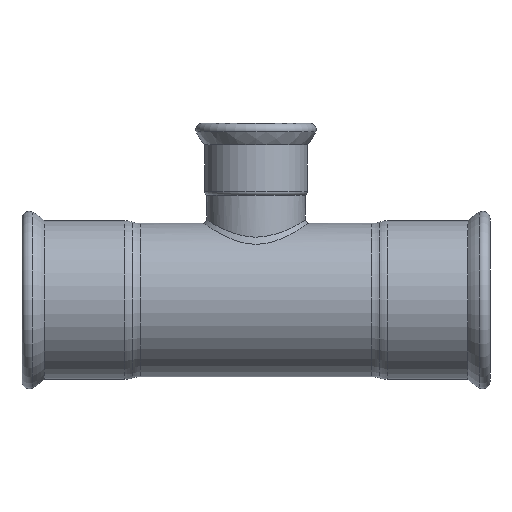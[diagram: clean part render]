
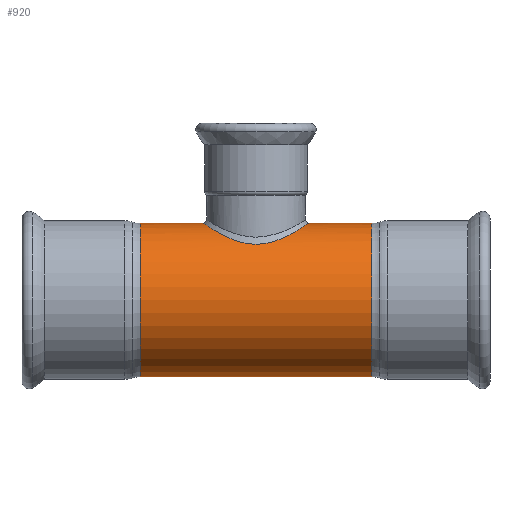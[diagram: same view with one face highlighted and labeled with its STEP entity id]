
A CAD part, front view. The second image highlights one B-rep face of the part: STEP entity #920.
In plain terms, the highlighted cylindrical face has radius 84.15 mm (diameter 168.3 mm), a full revolution.
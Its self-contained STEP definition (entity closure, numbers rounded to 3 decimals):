
#18=FACE_BOUND('',#148,.T.);
#21=B_SPLINE_CURVE_WITH_KNOTS('',3,(#1825,#1826,#1827,#1828,#1829,#1830,
#1831,#1832,#1833,#1834,#1835,#1836,#1837,#1838,#1839,#1840,#1841,#1842,
#1843,#1844,#1845,#1846,#1847,#1848,#1849,#1850,#1851,#1852,#1853,#1854,
#1855,#1856,#1857,#1858,#1859,#1860,#1861,#1862,#1863,#1864,#1865,#1866,
#1867,#1868,#1869,#1870,#1871,#1872,#1873,#1874,#1875,#1876,#1877,#1878,
#1879,#1880,#1881,#1882,#1883,#1884),.UNSPECIFIED.,.F.,.F.,(4,1,1,2,2,1,
1,2,2,2,1,2,2,1,1,2,1,2,2,1,2,2,1,2,1,1,2,2,1,2,2,1,1,2,1,1,1,2,4),(-0.954,
-0.949,-0.932,-0.909,-0.861,
-0.837,-0.826,-0.814,-0.765,
-0.717,-0.693,-0.669,-0.62,
-0.596,-0.584,-0.572,-0.561,
-0.525,-0.477,-0.454,-0.431,
-0.384,-0.348,-0.336,-0.324,
-0.313,-0.289,-0.24,-0.216,
-0.192,-0.144,-0.107,-0.101,
-0.095,-0.083,-0.077,-0.071,
-0.048,0.),.UNSPECIFIED.);
#22=B_SPLINE_CURVE_WITH_KNOTS('',3,(#1885,#1886,#1887,#1888,#1889,#1890,
#1891),.UNSPECIFIED.,.F.,.F.,(4,3,4),(0.,0.023,0.046),
 .UNSPECIFIED.);
#100=FACE_OUTER_BOUND('',#147,.T.);
#147=EDGE_LOOP('',(#846,#847,#848,#849,#850,#851,#852,#853));
#148=EDGE_LOOP('',(#854,#855));
#168=LINE('',#2452,#188);
#188=VECTOR('',#1436,84.15);
#260=CIRCLE('',#1034,84.15);
#261=CIRCLE('',#1035,84.15);
#262=CIRCLE('',#1036,84.15);
#289=CIRCLE('',#1073,84.15);
#290=CIRCLE('',#1074,84.15);
#291=CIRCLE('',#1075,84.15);
#349=VERTEX_POINT('',#1823);
#350=VERTEX_POINT('',#1824);
#375=VERTEX_POINT('',#2295);
#376=VERTEX_POINT('',#2297);
#377=VERTEX_POINT('',#2299);
#398=VERTEX_POINT('',#2360);
#399=VERTEX_POINT('',#2362);
#400=VERTEX_POINT('',#2364);
#470=EDGE_CURVE('',#349,#350,#21,.T.);
#471=EDGE_CURVE('',#350,#349,#22,.T.);
#507=EDGE_CURVE('',#375,#376,#260,.T.);
#508=EDGE_CURVE('',#376,#377,#261,.T.);
#509=EDGE_CURVE('',#377,#375,#262,.T.);
#539=EDGE_CURVE('',#399,#398,#289,.T.);
#540=EDGE_CURVE('',#400,#399,#290,.T.);
#541=EDGE_CURVE('',#398,#400,#291,.T.);
#562=EDGE_CURVE('',#400,#376,#168,.T.);
#846=ORIENTED_EDGE('',*,*,#539,.T.);
#847=ORIENTED_EDGE('',*,*,#541,.T.);
#848=ORIENTED_EDGE('',*,*,#562,.T.);
#849=ORIENTED_EDGE('',*,*,#507,.F.);
#850=ORIENTED_EDGE('',*,*,#509,.F.);
#851=ORIENTED_EDGE('',*,*,#508,.F.);
#852=ORIENTED_EDGE('',*,*,#562,.F.);
#853=ORIENTED_EDGE('',*,*,#540,.T.);
#854=ORIENTED_EDGE('',*,*,#470,.T.);
#855=ORIENTED_EDGE('',*,*,#471,.T.);
#877=CYLINDRICAL_SURFACE('',#1099,84.15);
#920=ADVANCED_FACE('',(#100,#18),#877,.T.);
#1034=AXIS2_PLACEMENT_3D('',#2298,#1298,#1299);
#1035=AXIS2_PLACEMENT_3D('',#2300,#1300,#1301);
#1036=AXIS2_PLACEMENT_3D('',#2301,#1302,#1303);
#1073=AXIS2_PLACEMENT_3D('',#2363,#1379,#1380);
#1074=AXIS2_PLACEMENT_3D('',#2365,#1381,#1382);
#1075=AXIS2_PLACEMENT_3D('',#2366,#1383,#1384);
#1099=AXIS2_PLACEMENT_3D('',#2451,#1434,#1435);
#1298=DIRECTION('center_axis',(-1.,0.,0.));
#1299=DIRECTION('ref_axis',(0.,0.,-1.));
#1300=DIRECTION('center_axis',(-1.,0.,0.));
#1301=DIRECTION('ref_axis',(0.,0.,-1.));
#1302=DIRECTION('center_axis',(-1.,0.,0.));
#1303=DIRECTION('ref_axis',(0.,0.,-1.));
#1379=DIRECTION('center_axis',(-1.,0.,0.));
#1380=DIRECTION('ref_axis',(0.,0.,-1.));
#1381=DIRECTION('center_axis',(-1.,0.,0.));
#1382=DIRECTION('ref_axis',(0.,0.,-1.));
#1383=DIRECTION('center_axis',(-1.,0.,0.));
#1384=DIRECTION('ref_axis',(0.,0.,-1.));
#1434=DIRECTION('center_axis',(-1.,0.,0.));
#1435=DIRECTION('ref_axis',(0.,1.,0.));
#1436=DIRECTION('',(-1.,0.,0.));
#1823=CARTESIAN_POINT('',(0.,-57.585,61.362));
#1824=CARTESIAN_POINT('',(17.723,-54.789,63.87));
#1825=CARTESIAN_POINT('Ctrl Pts',(-0.002,-57.586,
61.36));
#1826=CARTESIAN_POINT('Ctrl Pts',(-0.775,-57.586,61.36));
#1827=CARTESIAN_POINT('Ctrl Pts',(-3.863,-57.523,61.419));
#1828=CARTESIAN_POINT('Ctrl Pts',(-10.05,-56.896,62.008));
#1829=CARTESIAN_POINT('Ctrl Pts',(-15.082,-55.642,63.138));
#1830=CARTESIAN_POINT('Ctrl Pts',(-23.275,-52.997,65.409));
#1831=CARTESIAN_POINT('Ctrl Pts',(-28.491,-50.36,67.532));
#1832=CARTESIAN_POINT('Ctrl Pts',(-35.363,-45.533,70.794));
#1833=CARTESIAN_POINT('Ctrl Pts',(-38.599,-42.88,72.461));
#1834=CARTESIAN_POINT('Ctrl Pts',(-42.33,-39.108,74.535));
#1835=CARTESIAN_POINT('Ctrl Pts',(-44.087,-37.069,75.554));
#1836=CARTESIAN_POINT('Ctrl Pts',(-48.361,-31.746,78.08));
#1837=CARTESIAN_POINT('Ctrl Pts',(-51.322,-26.753,79.978));
#1838=CARTESIAN_POINT('Ctrl Pts',(-55.628,-15.988,82.809));
#1839=CARTESIAN_POINT('Ctrl Pts',(-56.997,-10.097,83.75));
#1840=CARTESIAN_POINT('Ctrl Pts',(-57.633,-1.483,84.183));
#1841=CARTESIAN_POINT('Ctrl Pts',(-57.651,4.318,84.196));
#1842=CARTESIAN_POINT('Ctrl Pts',(-56.746,10.211,83.577));
#1843=CARTESIAN_POINT('Ctrl Pts',(-54.782,18.689,82.252));
#1844=CARTESIAN_POINT('Ctrl Pts',(-52.571,24.196,80.772));
#1845=CARTESIAN_POINT('Ctrl Pts',(-48.274,31.518,78.066));
#1846=CARTESIAN_POINT('Ctrl Pts',(-45.881,34.993,76.595));
#1847=CARTESIAN_POINT('Ctrl Pts',(-42.288,39.154,74.511));
#1848=CARTESIAN_POINT('Ctrl Pts',(-40.423,41.033,73.475));
#1849=CARTESIAN_POINT('Ctrl Pts',(-38.481,42.859,72.425));
#1850=CARTESIAN_POINT('Ctrl Pts',(-34.403,46.448,70.271));
#1851=CARTESIAN_POINT('Ctrl Pts',(-29.635,49.553,68.056));
#1852=CARTESIAN_POINT('Ctrl Pts',(-20.756,54.024,64.599));
#1853=CARTESIAN_POINT('Ctrl Pts',(-14.878,55.958,62.861));
#1854=CARTESIAN_POINT('Ctrl Pts',(-6.151,57.327,61.605));
#1855=CARTESIAN_POINT('Ctrl Pts',(0.,57.844,61.117));
#1856=CARTESIAN_POINT('Ctrl Pts',(6.151,57.327,61.605));
#1857=CARTESIAN_POINT('Ctrl Pts',(14.878,55.958,62.861));
#1858=CARTESIAN_POINT('Ctrl Pts',(20.756,54.024,64.599));
#1859=CARTESIAN_POINT('Ctrl Pts',(29.635,49.553,68.056));
#1860=CARTESIAN_POINT('Ctrl Pts',(34.403,46.448,70.271));
#1861=CARTESIAN_POINT('Ctrl Pts',(38.481,42.859,72.425));
#1862=CARTESIAN_POINT('Ctrl Pts',(40.423,41.033,73.475));
#1863=CARTESIAN_POINT('Ctrl Pts',(42.288,39.154,74.511));
#1864=CARTESIAN_POINT('Ctrl Pts',(45.881,34.993,76.595));
#1865=CARTESIAN_POINT('Ctrl Pts',(48.274,31.518,78.066));
#1866=CARTESIAN_POINT('Ctrl Pts',(52.571,24.196,80.772));
#1867=CARTESIAN_POINT('Ctrl Pts',(54.782,18.689,82.252));
#1868=CARTESIAN_POINT('Ctrl Pts',(56.746,10.211,83.577));
#1869=CARTESIAN_POINT('Ctrl Pts',(57.651,4.318,84.196));
#1870=CARTESIAN_POINT('Ctrl Pts',(57.634,-1.483,84.183));
#1871=CARTESIAN_POINT('Ctrl Pts',(56.996,-10.097,83.749));
#1872=CARTESIAN_POINT('Ctrl Pts',(55.631,-15.988,82.81));
#1873=CARTESIAN_POINT('Ctrl Pts',(51.858,-25.405,80.331));
#1874=CARTESIAN_POINT('Ctrl Pts',(49.452,-29.863,78.781));
#1875=CARTESIAN_POINT('Ctrl Pts',(46.194,-34.403,76.803));
#1876=CARTESIAN_POINT('Ctrl Pts',(45.348,-35.497,76.299));
#1877=CARTESIAN_POINT('Ctrl Pts',(44.086,-37.07,75.554));
#1878=CARTESIAN_POINT('Ctrl Pts',(42.772,-38.597,74.791));
#1879=CARTESIAN_POINT('Ctrl Pts',(40.929,-40.523,73.756));
#1880=CARTESIAN_POINT('Ctrl Pts',(38.063,-43.321,72.184));
#1881=CARTESIAN_POINT('Ctrl Pts',(35.361,-45.533,70.793));
#1882=CARTESIAN_POINT('Ctrl Pts',(28.492,-50.361,67.532));
#1883=CARTESIAN_POINT('Ctrl Pts',(23.274,-52.994,65.41));
#1884=CARTESIAN_POINT('Ctrl Pts',(17.723,-54.789,63.87));
#1885=CARTESIAN_POINT('Ctrl Pts',(17.723,-54.789,63.87));
#1886=CARTESIAN_POINT('Ctrl Pts',(15.083,-55.643,63.137));
#1887=CARTESIAN_POINT('Ctrl Pts',(12.202,-56.359,62.491));
#1888=CARTESIAN_POINT('Ctrl Pts',(9.204,-56.845,62.047));
#1889=CARTESIAN_POINT('Ctrl Pts',(6.206,-57.33,61.603));
#1890=CARTESIAN_POINT('Ctrl Pts',(3.091,-57.585,61.361));
#1891=CARTESIAN_POINT('Ctrl Pts',(-0.002,-57.586,
61.36));
#2295=CARTESIAN_POINT('',(-127.36,0.,-84.15));
#2297=CARTESIAN_POINT('',(-127.36,-84.15,0.));
#2298=CARTESIAN_POINT('Origin',(-127.36,0.,0.));
#2299=CARTESIAN_POINT('',(-127.36,84.15,0.));
#2300=CARTESIAN_POINT('Origin',(-127.36,0.,0.));
#2301=CARTESIAN_POINT('Origin',(-127.36,0.,0.));
#2360=CARTESIAN_POINT('',(127.36,0.,-84.15));
#2362=CARTESIAN_POINT('',(127.36,84.15,0.));
#2363=CARTESIAN_POINT('Origin',(127.36,0.,0.));
#2364=CARTESIAN_POINT('',(127.36,-84.15,0.));
#2365=CARTESIAN_POINT('Origin',(127.36,0.,0.));
#2366=CARTESIAN_POINT('Origin',(127.36,0.,0.));
#2451=CARTESIAN_POINT('Origin',(0.,0.,0.));
#2452=CARTESIAN_POINT('',(0.,-84.15,0.));
